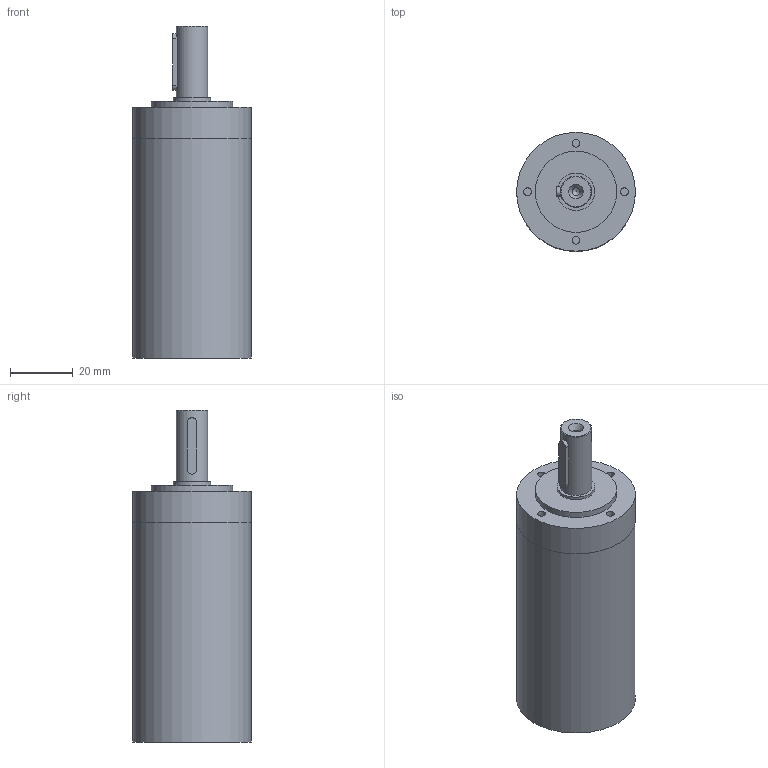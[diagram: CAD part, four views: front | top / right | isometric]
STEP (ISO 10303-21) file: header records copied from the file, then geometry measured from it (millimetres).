
FILE_DESCRIPTION(/* description */ (''),/* implementation_level */ '2;1');
FILE_NAME(/* name */ '38-A_4.stp',/* time_stamp */ '2016-09-16T12:06:05+02:00',/* author */ ('DR. FRITZ FAULHABER GmbH & Co. KG'),/* organization */ ('DR. FRITZ FAULHABER GmbH & Co. KG'),/* preprocessor_version */ 'ST-DEVELOPER v16',/* originating_system */ 'SIEMENS PLM Software NX 10.0',/* authorisation */ '');
FILE_SCHEMA (('AUTOMOTIVE_DESIGN { 1 0 10303 214 3 1 1 1 }'));
Length unit declared in the file: millimetre
Products named in the file (1): huge19E82220l2qo
Bounding box: 38 x 38 x 106.2 mm (x, y, z)
Volume: 81017.3 mm3; surface area: 14838.9 mm2
Topology: 1 solids, 1 shells, 40 faces, 72 edges, 48 vertices
Faces by surface type: plane 19, cylinder 18, cone 3
Full cylindrical faces by diameter (mm): 2.5 x5, 10 x1, 12 x1, 17.88 x1, 18.28 x1, 26 x1, 32.6 x1, 33.3 x1, 35.459 x1, 37.99 x1, 38 x2
Entity records: 930 total; most frequent: CARTESIAN_POINT 190, DIRECTION 162, ORIENTED_EDGE 92, AXIS2_PLACEMENT_3D 77, EDGE_LOOP 74, FACE_BOUND 65, EDGE_CURVE 46, VERTEX_POINT 43
